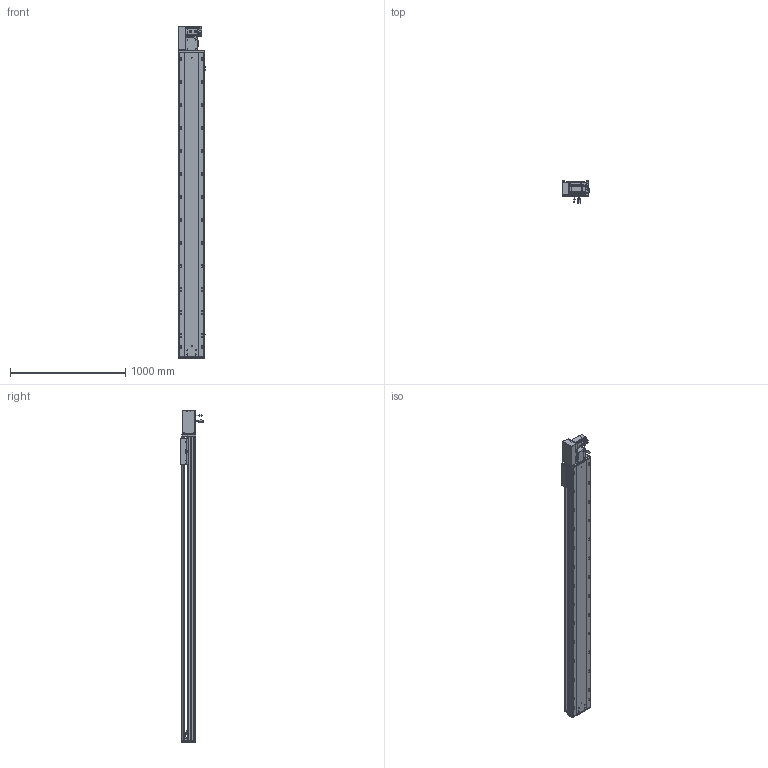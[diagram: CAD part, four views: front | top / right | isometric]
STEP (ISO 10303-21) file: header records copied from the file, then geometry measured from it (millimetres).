
FILE_DESCRIPTION (( 'STEP AP203' ), '1' );
FILE_NAME ('RY220-T-300-LK.SLDASM_2300.step', '2022-07-25T08:15:38', ( '' ), ( '' ), 'SwSTEP 2.0', 'SolidWorks 2016', '' );
FILE_SCHEMA (( 'CONFIG_CONTROL_DESIGN' ));
Length unit declared in the file: millimetre
Products named in the file (14): RY220-同步轮副支撑座6304×2; 110A-T-肮祭謫釱傷裔; RY220-T-300-奻裔啣_2300; RY220翋肮祭謫釱; RY220-T菁釱-300_2300; RY220-俋离672覜茼んえ; RY220翋肮祭謫裔啣; RY220-T-湍謫欶(鍼踢); 怢湛750W_ECMA-CX0807ES; RY220圉猾敕々湍臏賑輸; 滅袉蝶18-15; RY220-T-蛌殏萇儂假蚾啣(750W); RY220-T-300-LK.SLDASM_2300; 覜茼ん672
Assembly tree (18 placements, depth 2):
  RY220-T-300-LK.SLDASM_2300
    RY220-T菁釱-300_2300
    RY220翋肮祭謫釱
    覜茼ん672  x3
    RY220圉猾敕々湍臏賑輸
    RY220-T-300-奻裔啣_2300
    RY220-俋离672覜茼んえ
    滅袉蝶18-15  x3
    RY220翋肮祭謫裔啣  x2
    110A-T-肮祭謫釱傷裔
    怢湛750W_ECMA-CX0807ES
    RY220-T-湍謫欶(鍼踢)
    RY220-T-蛌殏萇儂假蚾啣(750W)
    RY220-同步轮副支撑座6304×2
Bounding box: 239.7 x 198.77 x 2879 mm (x, y, z)
Volume: 20671875.5 mm3; surface area: 6322714.6 mm2
Topology: 19 solids, 19 shells, 2890 faces, 7991 edges, 5024 vertices
Faces by surface type: cylinder 1406, plane 1069, cone 333, bspline 56, sphere 16, torus 10
Entity records: 96371 total; most frequent: CARTESIAN_POINT 27289, ORIENTED_EDGE 14298, DIRECTION 13720, EDGE_CURVE 7149, AXIS2_PLACEMENT_3D 4924, VERTEX_POINT 4648, LINE 3872, VECTOR 3872
